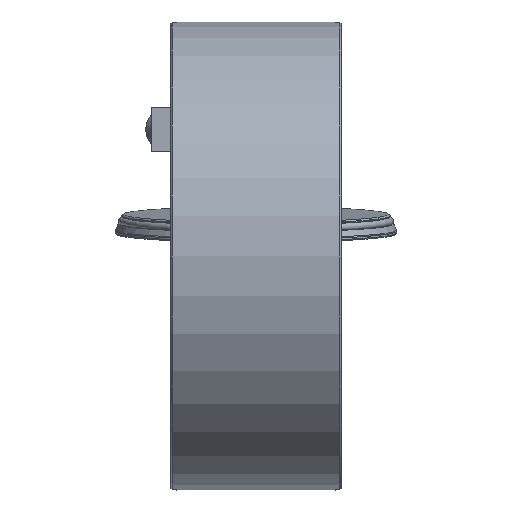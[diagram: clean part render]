
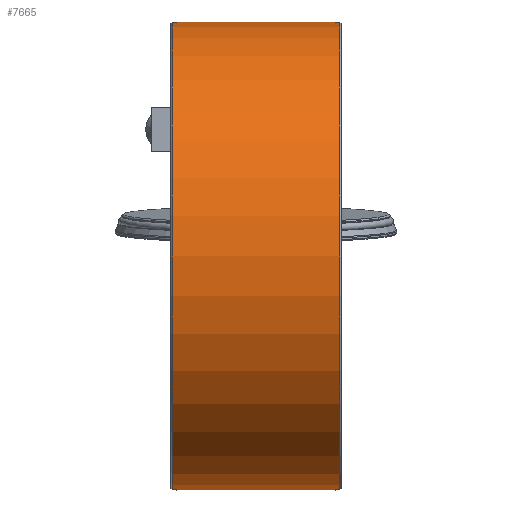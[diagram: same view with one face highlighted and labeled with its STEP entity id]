
A CAD part, left-side view. The second image highlights one B-rep face of the part: STEP entity #7665.
In plain terms, the highlighted cylindrical face has radius 82.5 mm (diameter 165 mm), a full revolution.
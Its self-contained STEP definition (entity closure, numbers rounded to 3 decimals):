
#4819=CYLINDRICAL_SURFACE('',#22312,82.5);
#5641=FACE_BOUND('',#10260,.T.);
#5642=FACE_BOUND('',#10261,.T.);
#5643=FACE_BOUND('',#10262,.T.);
#6603=CIRCLE('',#22302,82.5);
#6604=CIRCLE('',#22303,82.5);
#6605=CIRCLE('',#22304,82.5);
#6606=CIRCLE('',#22305,82.5);
#6607=CIRCLE('',#22306,82.5);
#6608=CIRCLE('',#22307,82.5);
#6609=CIRCLE('',#22308,82.5);
#6610=CIRCLE('',#22309,82.5);
#6611=CIRCLE('',#22310,82.5);
#6612=CIRCLE('',#22311,82.5);
#7665=ADVANCED_FACE('',(#5641,#5642,#5643),#4819,.T.);
#10260=EDGE_LOOP('',(#14342,#14343,#14344,#14345));
#10261=EDGE_LOOP('',(#14346,#14347,#14348,#14349,#14350,#14351,#14352,#14353));
#10262=EDGE_LOOP('',(#14354,#14355,#14356,#14357,#14358,#14359,#14360,#14361));
#14342=ORIENTED_EDGE('',*,*,#18345,.T.);
#14343=ORIENTED_EDGE('',*,*,#18346,.T.);
#14344=ORIENTED_EDGE('',*,*,#18347,.T.);
#14345=ORIENTED_EDGE('',*,*,#18348,.T.);
#14346=ORIENTED_EDGE('',*,*,#18349,.F.);
#14347=ORIENTED_EDGE('',*,*,#18350,.T.);
#14348=ORIENTED_EDGE('',*,*,#18351,.F.);
#14349=ORIENTED_EDGE('',*,*,#18352,.T.);
#14350=ORIENTED_EDGE('',*,*,#18353,.T.);
#14351=ORIENTED_EDGE('',*,*,#18354,.F.);
#14352=ORIENTED_EDGE('',*,*,#18355,.T.);
#14353=ORIENTED_EDGE('',*,*,#18356,.T.);
#14354=ORIENTED_EDGE('',*,*,#18357,.T.);
#14355=ORIENTED_EDGE('',*,*,#18358,.F.);
#14356=ORIENTED_EDGE('',*,*,#18359,.F.);
#14357=ORIENTED_EDGE('',*,*,#18360,.T.);
#14358=ORIENTED_EDGE('',*,*,#18361,.T.);
#14359=ORIENTED_EDGE('',*,*,#18362,.F.);
#14360=ORIENTED_EDGE('',*,*,#18363,.F.);
#14361=ORIENTED_EDGE('',*,*,#18364,.T.);
#16222=VERTEX_POINT('',#33288);
#16223=VERTEX_POINT('',#33289);
#16224=VERTEX_POINT('',#33291);
#16225=VERTEX_POINT('',#33293);
#16226=VERTEX_POINT('',#33296);
#16227=VERTEX_POINT('',#33297);
#16228=VERTEX_POINT('',#33299);
#16229=VERTEX_POINT('',#33301);
#16230=VERTEX_POINT('',#33303);
#16231=VERTEX_POINT('',#33305);
#16232=VERTEX_POINT('',#33307);
#16233=VERTEX_POINT('',#33309);
#16234=VERTEX_POINT('',#33312);
#16235=VERTEX_POINT('',#33313);
#16236=VERTEX_POINT('',#33315);
#16237=VERTEX_POINT('',#33317);
#16238=VERTEX_POINT('',#33319);
#16239=VERTEX_POINT('',#33321);
#16240=VERTEX_POINT('',#33323);
#16241=VERTEX_POINT('',#33325);
#18345=EDGE_CURVE('',#16222,#16223,#19673,.T.);
#18346=EDGE_CURVE('',#16223,#16224,#6603,.T.);
#18347=EDGE_CURVE('',#16224,#16225,#19674,.T.);
#18348=EDGE_CURVE('',#16225,#16222,#6604,.T.);
#18349=EDGE_CURVE('',#16226,#16227,#19675,.T.);
#18350=EDGE_CURVE('',#16226,#16228,#6605,.T.);
#18351=EDGE_CURVE('',#16229,#16228,#19676,.T.);
#18352=EDGE_CURVE('',#16229,#16230,#6606,.T.);
#18353=EDGE_CURVE('',#16230,#16231,#19677,.T.);
#18354=EDGE_CURVE('',#16232,#16231,#6607,.T.);
#18355=EDGE_CURVE('',#16232,#16233,#19678,.T.);
#18356=EDGE_CURVE('',#16233,#16227,#6608,.T.);
#18357=EDGE_CURVE('',#16234,#16235,#19679,.T.);
#18358=EDGE_CURVE('',#16236,#16235,#6609,.T.);
#18359=EDGE_CURVE('',#16237,#16236,#19680,.T.);
#18360=EDGE_CURVE('',#16237,#16238,#6610,.T.);
#18361=EDGE_CURVE('',#16238,#16239,#19681,.T.);
#18362=EDGE_CURVE('',#16240,#16239,#6611,.T.);
#18363=EDGE_CURVE('',#16241,#16240,#19682,.T.);
#18364=EDGE_CURVE('',#16241,#16234,#6612,.T.);
#19673=LINE('',#33287,#20795);
#19674=LINE('',#33292,#20796);
#19675=LINE('',#33295,#20797);
#19676=LINE('',#33300,#20798);
#19677=LINE('',#33304,#20799);
#19678=LINE('',#33308,#20800);
#19679=LINE('',#33311,#20801);
#19680=LINE('',#33316,#20802);
#19681=LINE('',#33320,#20803);
#19682=LINE('',#33324,#20804);
#20795=VECTOR('',#26730,1.);
#20796=VECTOR('',#26733,1.);
#20797=VECTOR('',#26736,1.);
#20798=VECTOR('',#26739,1.);
#20799=VECTOR('',#26742,1.);
#20800=VECTOR('',#26745,1.);
#20801=VECTOR('',#26748,1.);
#20802=VECTOR('',#26751,1.);
#20803=VECTOR('',#26754,1.);
#20804=VECTOR('',#26757,1.);
#22302=AXIS2_PLACEMENT_3D('',#33290,#26731,#26732);
#22303=AXIS2_PLACEMENT_3D('',#33294,#26734,#26735);
#22304=AXIS2_PLACEMENT_3D('',#33298,#26737,#26738);
#22305=AXIS2_PLACEMENT_3D('',#33302,#26740,#26741);
#22306=AXIS2_PLACEMENT_3D('',#33306,#26743,#26744);
#22307=AXIS2_PLACEMENT_3D('',#33310,#26746,#26747);
#22308=AXIS2_PLACEMENT_3D('',#33314,#26749,#26750);
#22309=AXIS2_PLACEMENT_3D('',#33318,#26752,#26753);
#22310=AXIS2_PLACEMENT_3D('',#33322,#26755,#26756);
#22311=AXIS2_PLACEMENT_3D('',#33326,#26758,#26759);
#22312=AXIS2_PLACEMENT_3D('',#33327,#26760,#26761);
#26730=DIRECTION('',(1.,0.,0.));
#26731=DIRECTION('',(1.,0.,0.));
#26732=DIRECTION('',(0.,0.,-1.));
#26733=DIRECTION('',(-1.,0.,0.));
#26734=DIRECTION('',(-1.,0.,0.));
#26735=DIRECTION('',(0.,0.,1.));
#26736=DIRECTION('',(1.,0.,0.));
#26737=DIRECTION('',(-1.,0.,0.));
#26738=DIRECTION('',(0.,0.,1.));
#26739=DIRECTION('',(-1.,0.,0.));
#26740=DIRECTION('',(-1.,0.,0.));
#26741=DIRECTION('',(0.,-1.,0.));
#26742=DIRECTION('',(-1.,0.,0.));
#26743=DIRECTION('',(1.,0.,0.));
#26744=DIRECTION('',(0.,0.,-1.));
#26745=DIRECTION('',(1.,0.,0.));
#26746=DIRECTION('',(-1.,0.,0.));
#26747=DIRECTION('',(0.,-1.,0.));
#26748=DIRECTION('',(-1.,0.,0.));
#26749=DIRECTION('',(-1.,0.,0.));
#26750=DIRECTION('',(0.,-1.,0.));
#26751=DIRECTION('',(-1.,0.,0.));
#26752=DIRECTION('',(1.,0.,0.));
#26753=DIRECTION('',(0.,0.,-1.));
#26754=DIRECTION('',(-1.,0.,0.));
#26755=DIRECTION('',(-1.,0.,0.));
#26756=DIRECTION('',(0.,-1.,0.));
#26757=DIRECTION('',(-1.,0.,0.));
#26758=DIRECTION('',(1.,0.,0.));
#26759=DIRECTION('',(0.,0.,1.));
#26760=DIRECTION('',(-1.,0.,0.));
#26761=DIRECTION('',(0.,-1.,0.));
#33287=CARTESIAN_POINT('',(0.,70.,-43.661));
#33288=CARTESIAN_POINT('',(11.963,70.,-43.661));
#33289=CARTESIAN_POINT('',(48.038,70.,-43.661));
#33290=CARTESIAN_POINT('',(48.038,0.,0.));
#33291=CARTESIAN_POINT('',(48.038,70.,43.661));
#33292=CARTESIAN_POINT('',(0.,70.,43.661));
#33293=CARTESIAN_POINT('',(11.963,70.,43.661));
#33294=CARTESIAN_POINT('',(11.963,0.,0.));
#33295=CARTESIAN_POINT('',(0.,3.,-82.445));
#33296=CARTESIAN_POINT('',(58.,3.,-82.445));
#33297=CARTESIAN_POINT('',(59.5,3.,-82.445));
#33298=CARTESIAN_POINT('',(58.,0.,0.));
#33299=CARTESIAN_POINT('',(58.,-3.,-82.445));
#33300=CARTESIAN_POINT('',(0.,-3.,-82.445));
#33301=CARTESIAN_POINT('',(59.5,-3.,-82.445));
#33302=CARTESIAN_POINT('',(59.5,0.,0.));
#33303=CARTESIAN_POINT('',(59.5,-3.,82.445));
#33304=CARTESIAN_POINT('',(0.,-3.,82.445));
#33305=CARTESIAN_POINT('',(58.,-3.,82.445));
#33306=CARTESIAN_POINT('',(58.,0.,0.));
#33307=CARTESIAN_POINT('',(58.,3.,82.445));
#33308=CARTESIAN_POINT('',(0.,3.,82.445));
#33309=CARTESIAN_POINT('',(59.5,3.,82.445));
#33310=CARTESIAN_POINT('',(59.5,0.,0.));
#33311=CARTESIAN_POINT('',(2.,3.,-82.445));
#33312=CARTESIAN_POINT('',(2.,3.,-82.445));
#33313=CARTESIAN_POINT('',(0.5,3.,-82.445));
#33314=CARTESIAN_POINT('',(0.5,0.,0.));
#33315=CARTESIAN_POINT('',(0.5,3.,82.445));
#33316=CARTESIAN_POINT('',(2.,3.,82.445));
#33317=CARTESIAN_POINT('',(2.,3.,82.445));
#33318=CARTESIAN_POINT('',(2.,0.,0.));
#33319=CARTESIAN_POINT('',(2.,-3.,82.445));
#33320=CARTESIAN_POINT('',(2.,-3.,82.445));
#33321=CARTESIAN_POINT('',(0.5,-3.,82.445));
#33322=CARTESIAN_POINT('',(0.5,0.,0.));
#33323=CARTESIAN_POINT('',(0.5,-3.,-82.445));
#33324=CARTESIAN_POINT('',(2.,-3.,-82.445));
#33325=CARTESIAN_POINT('',(2.,-3.,-82.445));
#33326=CARTESIAN_POINT('',(2.,0.,0.));
#33327=CARTESIAN_POINT('',(0.,0.,0.));
